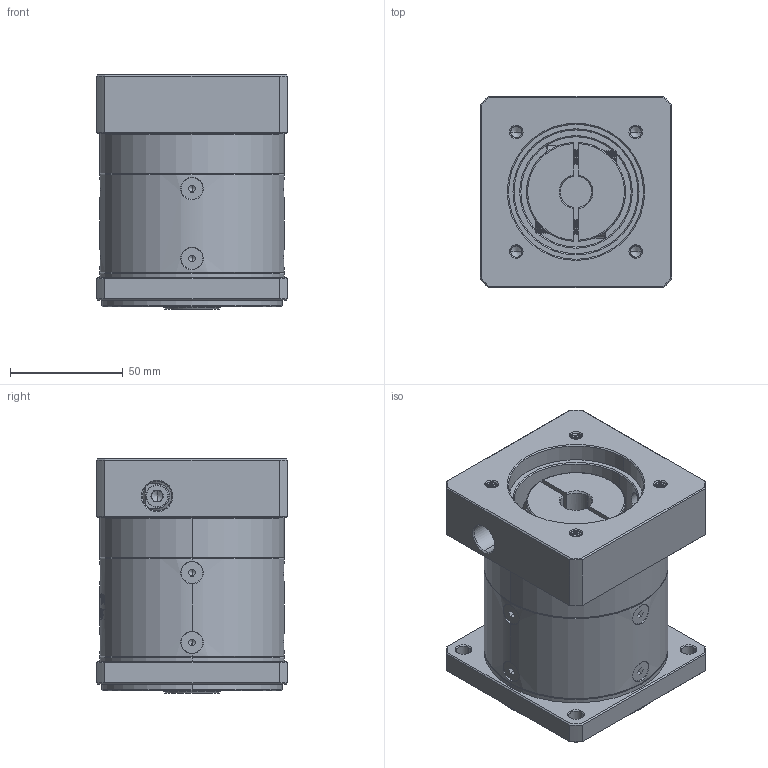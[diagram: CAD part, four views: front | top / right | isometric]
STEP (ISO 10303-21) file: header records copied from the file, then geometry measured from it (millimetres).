
FILE_DESCRIPTION (( 'STEP AP214' ), '1' );
FILE_NAME ('ZF080-K15-L1-P2-14-60-75-M6.step', '2023-08-19T05:34:27', ( '' ), ( '' ), 'SwSTEP 2.0', 'SolidWorks 2016', '' );
FILE_SCHEMA (( 'AUTOMOTIVE_DESIGN' ));
Length unit declared in the file: millimetre
Products named in the file (1): ZF080-K15-L1-P2-14-60-75-M6
Bounding box: 85 x 85 x 104 mm (x, y, z)
Volume: 538053.1 mm3; surface area: 87484.4 mm2
Topology: 13 solids, 13 shells, 2220 faces, 5813 edges, 3691 vertices
Faces by surface type: plane 1066, bspline 390, cylinder 388, cone 341, torus 35
Entity records: 117698 total; most frequent: CARTESIAN_POINT 43675, ORIENTED_EDGE 11570, DIRECTION 8584, EDGE_CURVE 5785, VERTEX_POINT 3691, LINE 3076, VECTOR 3076, AXIS2_PLACEMENT_3D 2754
